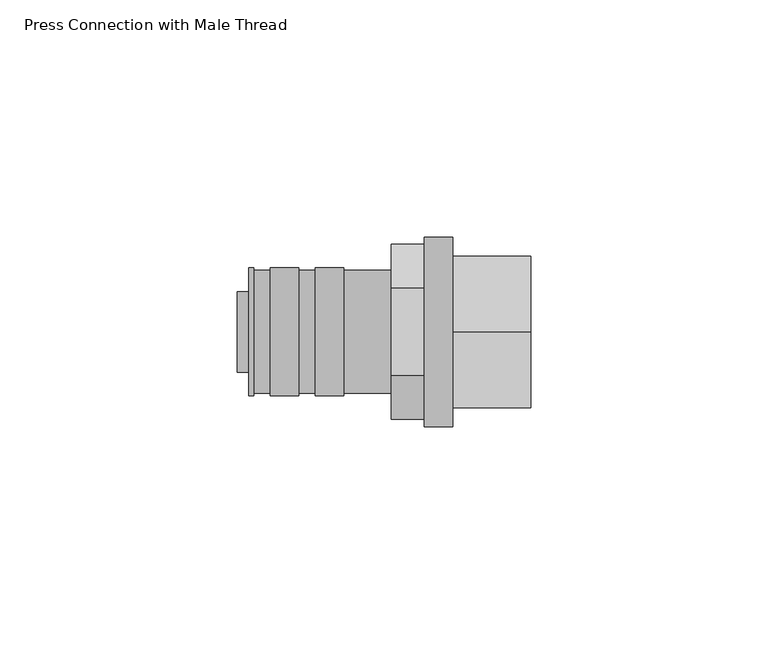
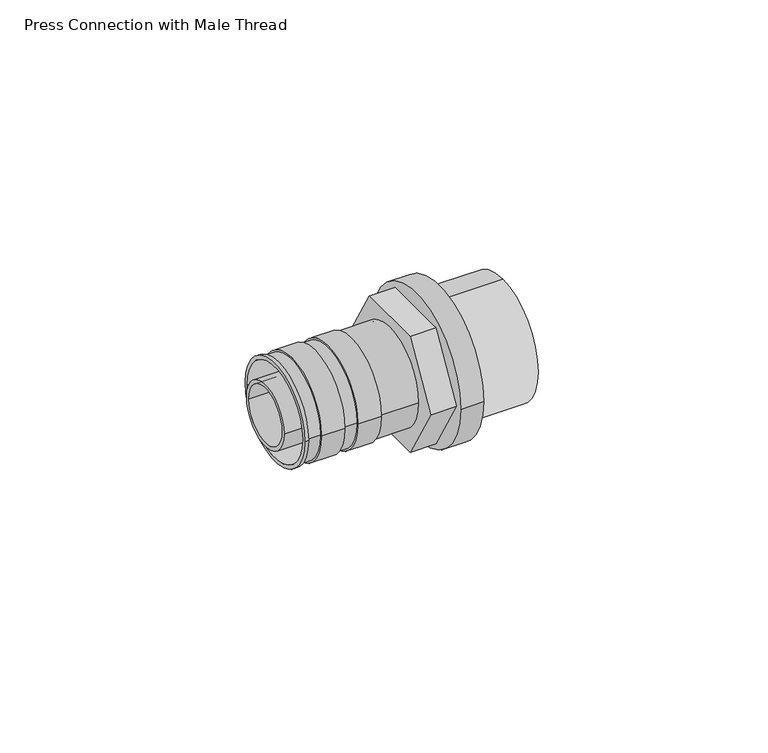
"""IFC4 building model written with IfcOpenShell, lengths in millimetres: pipe fitting geometry, Press Connection with Male Thread : Superpipe Press Connection - 25x1” MT."""

from ifc_helpers import new_model, si_unit, point, frame, origin, origin_2d, place, context, project, spatial, polyline, circle_curve, trimmed, segment, composite_curve, outline, extrude, source, transform, mapped, element, save
from ifc_brep_helpers import plane_surface, cylinder_surface, revolved_surface, advanced_brep


def press_connection_with_male_thread_8bc9dd04(model_context):
    return source(origin(), model_context, "Body", "SolidModel", [
        extrude(outline(composite_curve([segment(trimmed(circle_curve(origin_2d(), 16.0), [point((0.0, -16.0))], [point((0.0, 16.0))], False, "CARTESIAN"), True, "CONTINUOUS"), segment(trimmed(circle_curve(origin_2d(), 16.0), [point((0.0, 16.0))], [point((0.0, -16.0))], False, "CARTESIAN"), True, "CONTINUOUS")], self_intersect=False), holes=[composite_curve([segment(trimmed(circle_curve(origin_2d(), 12.5), [point((0.0, -12.5))], [point((0.0, 12.5))], True, "CARTESIAN"), True, "CONTINUOUS"), segment(trimmed(circle_curve(origin_2d(), 12.5), [point((0.0, 12.5))], [point((0.0, -12.5))], True, "CARTESIAN"), True, "CONTINUOUS")], self_intersect=False)]), frame((45.5, 0.0, 0.0), z_axis=(1.0, 0.0, 0.0), x_axis=(0.0, 1.0, 0.0)), (0.0, 0.0, 1.0), 16.5),
        advanced_brep(
        [(2.5, 13.5, 0.0), (2.5, -13.5, 0.0), (2.5, 12.5, 0.0), (2.5, -12.5, 0.0), (32.5, -13.0, 0.0), (32.5, 13.0, 0.0), (32.5, 12.5, 0.0), (32.5, -12.5, 0.0), (3.5, 13.5, 0.0), (3.5, -13.5, 0.0), (22.5, 13.5, 0.0), (22.5, -13.5, 0.0), (16.5, -13.5, 0.0), (16.5, 13.5, 0.0), (13.0, 13.5, 0.0), (13.0, -13.5, 0.0), (7.0, -13.5, 0.0), (7.0, 13.5, 0.0), (22.5, 13.0, 0.0), (22.5, -13.0, 0.0), (16.5, -13.0, 0.0), (16.5, 13.0, 0.0), (13.0, 13.0, 0.0), (13.0, -13.0, 0.0), (7.0, -13.0, 0.0), (7.0, 13.0, 0.0), (3.5, 13.0, 0.0), (3.5, -13.0, 0.0)],
        [
            (0, 1, circle_curve(frame((2.5, 0.0, 0.0), z_axis=(-1.0, 0.0, 0.0), x_axis=(0.0, -1.0, 0.0)), 13.5)),
            (1, 0, circle_curve(frame((2.5, 0.0, 0.0), z_axis=(-1.0, 0.0, 0.0), x_axis=(0.0, -1.0, 0.0)), 13.5)),
            (2, 3, circle_curve(frame((2.5, 0.0, 0.0), z_axis=(1.0, 0.0, 0.0), x_axis=(0.0, -1.0, 0.0)), 12.5)),
            (3, 2, circle_curve(frame((2.5, 0.0, 0.0), z_axis=(1.0, 0.0, 0.0), x_axis=(0.0, -1.0, 0.0)), 12.5)),
            (4, 5, circle_curve(frame((32.5, 0.0, 0.0), z_axis=(1.0, 0.0, 0.0), x_axis=(0.0, 1.0, 0.0)), 13.0)),
            (5, 4, circle_curve(frame((32.5, 0.0, 0.0), z_axis=(1.0, 0.0, 0.0), x_axis=(0.0, 1.0, 0.0)), 13.0)),
            (6, 7, circle_curve(frame((32.5, 0.0, 0.0), z_axis=(-1.0, 0.0, 0.0), x_axis=(0.0, -1.0, 0.0)), 12.5)),
            (7, 6, circle_curve(frame((32.5, 0.0, 0.0), z_axis=(-1.0, 0.0, 0.0), x_axis=(0.0, -1.0, 0.0)), 12.5)),
            (0, 8),
            (8, 9, circle_curve(frame((3.5, 0.0, 0.0), z_axis=(-1.0, 0.0, 0.0), x_axis=(0.0, -1.0, 0.0)), 13.5)),
            (9, 1),
            (10, 11, circle_curve(frame((22.5, 0.0, 0.0), z_axis=(-1.0, 0.0, 0.0), x_axis=(0.0, -1.0, 0.0)), 13.5)),
            (11, 12),
            (12, 13, circle_curve(frame((16.5, 0.0, 0.0), z_axis=(1.0, 0.0, 0.0), x_axis=(0.0, -1.0, 0.0)), 13.5)),
            (13, 10),
            (14, 15, circle_curve(frame((13.0, 0.0, 0.0), z_axis=(-1.0, 0.0, 0.0), x_axis=(0.0, -1.0, 0.0)), 13.5)),
            (15, 16),
            (16, 17, circle_curve(frame((7.0, 0.0, 0.0), z_axis=(1.0, 0.0, 0.0), x_axis=(0.0, -1.0, 0.0)), 13.5)),
            (17, 14),
            (9, 8, circle_curve(frame((3.5, 0.0, 0.0), z_axis=(-1.0, 0.0, 0.0), x_axis=(0.0, -1.0, 0.0)), 13.5)),
            (11, 10, circle_curve(frame((22.5, 0.0, 0.0), z_axis=(-1.0, 0.0, 0.0), x_axis=(0.0, -1.0, 0.0)), 13.5)),
            (13, 12, circle_curve(frame((16.5, 0.0, 0.0), z_axis=(1.0, 0.0, 0.0), x_axis=(0.0, -1.0, 0.0)), 13.5)),
            (15, 14, circle_curve(frame((13.0, 0.0, 0.0), z_axis=(-1.0, 0.0, 0.0), x_axis=(0.0, -1.0, 0.0)), 13.5)),
            (17, 16, circle_curve(frame((7.0, 0.0, 0.0), z_axis=(1.0, 0.0, 0.0), x_axis=(0.0, -1.0, 0.0)), 13.5)),
            (2, 6),
            (7, 3),
            (18, 19, circle_curve(frame((22.5, 0.0, 0.0), z_axis=(-1.0, 0.0, 0.0), x_axis=(0.0, 1.0, 0.0)), 13.0)),
            (19, 11),
            (10, 18),
            (19, 18, circle_curve(frame((22.5, 0.0, 0.0), z_axis=(-1.0, 0.0, 0.0), x_axis=(0.0, 1.0, 0.0)), 13.0)),
            (18, 5),
            (4, 19),
            (20, 21, circle_curve(frame((16.5, 0.0, 0.0), z_axis=(1.0, 0.0, 0.0), x_axis=(0.0, 1.0, 0.0)), 13.0)),
            (21, 13),
            (12, 20),
            (21, 20, circle_curve(frame((16.5, 0.0, 0.0), z_axis=(1.0, 0.0, 0.0), x_axis=(0.0, 1.0, 0.0)), 13.0)),
            (22, 23, circle_curve(frame((13.0, 0.0, 0.0), z_axis=(-1.0, 0.0, 0.0), x_axis=(0.0, 1.0, 0.0)), 13.0)),
            (23, 15),
            (14, 22),
            (23, 22, circle_curve(frame((13.0, 0.0, 0.0), z_axis=(-1.0, 0.0, 0.0), x_axis=(0.0, 1.0, 0.0)), 13.0)),
            (20, 23),
            (22, 21),
            (24, 25, circle_curve(frame((7.0, 0.0, 0.0), z_axis=(1.0, 0.0, 0.0), x_axis=(0.0, 1.0, 0.0)), 13.0)),
            (25, 17),
            (16, 24),
            (25, 24, circle_curve(frame((7.0, 0.0, 0.0), z_axis=(1.0, 0.0, 0.0), x_axis=(0.0, 1.0, 0.0)), 13.0)),
            (26, 27, circle_curve(frame((3.5, 0.0, 0.0), z_axis=(-1.0, 0.0, 0.0), x_axis=(0.0, 1.0, 0.0)), 13.0)),
            (27, 9),
            (8, 26),
            (27, 26, circle_curve(frame((3.5, 0.0, 0.0), z_axis=(-1.0, 0.0, 0.0), x_axis=(0.0, 1.0, 0.0)), 13.0)),
            (24, 27),
            (26, 25),
        ],
        [
            plane_surface(frame((2.5, -13.5, 0.0), z_axis=(-1.0, 0.0, 0.0), x_axis=(0.0, 0.0, 1.0))),
            plane_surface(frame((32.5, -13.5, 0.0), z_axis=(1.0, 0.0, 0.0), x_axis=(0.0, 0.0, -1.0))),
            cylinder_surface(frame((32.5, 0.0, 0.0), z_axis=(-1.0, 0.0, 0.0), x_axis=(0.0, -1.0, 0.0)), 13.5),
            revolved_surface(polyline([(32.5, -12.5, 0.0), (2.5, -12.5, 0.0)]), (32.5, 0.0, 0.0), (1.0, 0.0, 0.0)),
            plane_surface(frame((22.5, 0.0, 0.0), z_axis=(1.0, 0.0, 0.0), x_axis=(0.0, 1.0, 0.0))),
            cylinder_surface(frame((2000.0, 0.0, 0.0), z_axis=(-1.0, 0.0, 0.0), x_axis=(0.0, 1.0, 0.0)), 13.0),
            plane_surface(frame((16.5, 0.0, 0.0), z_axis=(-1.0, 0.0, 0.0), x_axis=(0.0, 1.0, 0.0))),
            plane_surface(frame((13.0, 0.0, 0.0), z_axis=(1.0, 0.0, 0.0), x_axis=(0.0, 1.0, 0.0))),
            plane_surface(frame((7.0, 0.0, 0.0), z_axis=(-1.0, 0.0, 0.0), x_axis=(0.0, 1.0, 0.0))),
            plane_surface(frame((3.5, 0.0, 0.0), z_axis=(1.0, 0.0, 0.0), x_axis=(0.0, 1.0, 0.0))),
        ],
        [
            (0, [[1, 2], [3, 4]]),
            (1, [[5, 6], [7, 8]]),
            (2, [[-1, 9, 10, 11]]),
            (2, [[12, 13, 14, 15]]),
            (2, [[16, 17, 18, 19]]),
            (2, [[-2, -11, 20, -9]]),
            (2, [[21, -15, 22, -13]]),
            (2, [[23, -19, 24, -17]]),
            (3, [[-3, 25, -8, 26]]),
            (3, [[-4, -26, -7, -25]]),
            (4, [[27, 28, -12, 29]]),
            (4, [[30, -29, -21, -28]]),
            (5, [[-27, 31, -5, 32]]),
            (5, [[-30, -32, -6, -31]]),
            (6, [[33, 34, -14, 35]]),
            (6, [[36, -35, -22, -34]]),
            (7, [[37, 38, -16, 39]]),
            (7, [[40, -39, -23, -38]]),
            (5, [[-33, 41, -37, 42]]),
            (5, [[-36, -42, -40, -41]]),
            (8, [[43, 44, -18, 45]]),
            (8, [[46, -45, -24, -44]]),
            (9, [[47, 48, -10, 49]]),
            (9, [[50, -49, -20, -48]]),
            (5, [[-43, 51, -47, 52]]),
            (5, [[-46, -52, -50, -51]]),
        ],
    ),
        extrude(outline(composite_curve([segment(trimmed(circle_curve(origin_2d(), 20.0), [point((-20.0, 0.0))], [point((20.0, 0.0))], False, "CARTESIAN"), True, "CONTINUOUS"), segment(trimmed(circle_curve(origin_2d(), 20.0), [point((20.0, 0.0))], [point((-20.0, 0.0))], False, "CARTESIAN"), True, "CONTINUOUS")], self_intersect=False), holes=[composite_curve([segment(trimmed(circle_curve(origin_2d(), 12.5), [point((-12.5, 0.0))], [point((12.5, 0.0))], True, "CARTESIAN"), True, "CONTINUOUS"), segment(trimmed(circle_curve(origin_2d(), 12.5), [point((12.5, 0.0))], [point((-12.5, 0.0))], True, "CARTESIAN"), True, "CONTINUOUS")], self_intersect=False)]), frame((39.5, 0.0, 0.0), z_axis=(1.0, 0.0, 0.0), x_axis=(0.0, 1.0, 0.0)), (0.0, 0.0, 1.0), 6.0),
        extrude(outline(polyline([(-18.4752086, 0.0), (-9.2376043, 16.0), (9.2376043, 16.0), (18.4752086, 0.0), (9.2376043, -16.0), (-9.2376043, -16.0), (-18.4752086, 0.0)]), holes=[composite_curve([segment(trimmed(circle_curve(origin_2d(), 7.5), [point((7.5, 0.0))], [point((-7.5, 0.0))], True, "CARTESIAN"), True, "CONTINUOUS"), segment(trimmed(circle_curve(origin_2d(), 7.5), [point((-7.5, 0.0))], [point((7.5, 0.0))], True, "CARTESIAN"), True, "CONTINUOUS")], self_intersect=False)]), frame((32.5, 0.0, 0.0), z_axis=(1.0, 0.0, 0.0), x_axis=(0.0, 1.0, 0.0)), (0.0, 0.0, 1.0), 7.0),
        extrude(outline(composite_curve([segment(trimmed(circle_curve(origin_2d(), 8.5), [point((-8.5, 0.0))], [point((8.5, 0.0))], False, "CARTESIAN"), True, "CONTINUOUS"), segment(trimmed(circle_curve(origin_2d(), 8.5), [point((8.5, 0.0))], [point((-8.5, 0.0))], False, "CARTESIAN"), True, "CONTINUOUS")], self_intersect=False), holes=[composite_curve([segment(trimmed(circle_curve(origin_2d(), 7.5), [point((7.5, 0.0))], [point((-7.5, 0.0))], True, "CARTESIAN"), True, "CONTINUOUS"), segment(trimmed(circle_curve(origin_2d(), 7.5), [point((-7.5, 0.0))], [point((7.5, 0.0))], True, "CARTESIAN"), True, "CONTINUOUS")], self_intersect=False)]), frame((0.0, 0.0, 0.0), z_axis=(1.0, 0.0, 0.0), x_axis=(0.0, 1.0, 0.0)), (0.0, 0.0, 1.0), 32.5),
    ])


if __name__ == "__main__":
    model = new_model("IFC4")
    model_context = context("Model", 3, world=origin())
    ifc_project = project(units=[si_unit("LENGTHUNIT", "METRE", prefix="MILLI")], contexts=[model_context])
    site = spatial("IfcSite", under=ifc_project)
    building = spatial("IfcBuilding", under=site)
    placement = place(None, origin())
    press_connection_with_male_thread_shape = press_connection_with_male_thread_8bc9dd04(model_context)
    element("IfcPipeFitting", 1, ObjectType="Press Connection with Male Thread : Superpipe Press Connection - 25x1” MT", at=placement, inside=building, context=model_context, shape_type="MappedRepresentation", body=[
        mapped(press_connection_with_male_thread_shape, transform((0.0, 0.0, 0.0), x_axis=(1.0, 0.0, 0.0), y_axis=(0.0, 1.0, 0.0), z_axis=(0.0, 0.0, 1.0))),
    ])
    save(model, "model.ifc")
